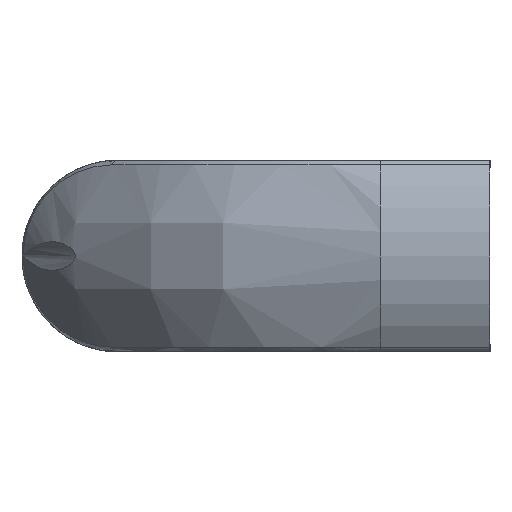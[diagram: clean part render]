
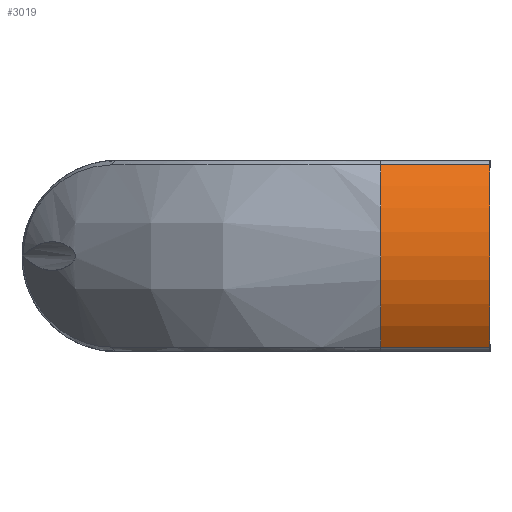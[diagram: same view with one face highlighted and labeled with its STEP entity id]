
A CAD part, left-side view. The second image highlights one B-rep face of the part: STEP entity #3019.
In plain terms, the highlighted cylindrical face has radius 28.521 mm (diameter 57.042 mm), a partial arc.
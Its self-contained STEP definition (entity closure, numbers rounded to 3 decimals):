
#42 = FACE_OUTER_BOUND ( 'NONE', #2627, .T. ) ;
#74 = CYLINDRICAL_SURFACE ( 'NONE', #1468, 28.521 ) ;
#594 = EDGE_CURVE ( 'NONE', #3085, #5094, #4191, .T. ) ;
#927 = ORIENTED_EDGE ( 'NONE', *, *, #1332, .T. ) ;
#1013 = DIRECTION ( 'NONE',  ( 0., 1., 0. ) ) ;
#1293 = DIRECTION ( 'NONE',  ( 0., 0., 1. ) ) ;
#1332 = EDGE_CURVE ( 'NONE', #3331, #1913, #2319, .T. ) ;
#1370 = CIRCLE ( 'NONE', #3042, 28.521 ) ;
#1468 = AXIS2_PLACEMENT_3D ( 'NONE', #3538, #3794, #3499 ) ;
#1913 = VERTEX_POINT ( 'NONE', #3684 ) ;
#2086 = CARTESIAN_POINT ( 'NONE',  ( -7.979, 20., 0. ) ) ;
#2138 = CARTESIAN_POINT ( 'NONE',  ( -31.122, 20., -16.669 ) ) ;
#2319 = LINE ( 'NONE', #4987, #2384 ) ;
#2384 = VECTOR ( 'NONE', #5026, 1000. ) ;
#2621 = CARTESIAN_POINT ( 'NONE',  ( -7.979, 0., 0. ) ) ;
#2627 = EDGE_LOOP ( 'NONE', ( #3443, #927, #3746, #3899 ) ) ;
#2650 = CARTESIAN_POINT ( 'NONE',  ( -31.122, 0., 16.669 ) ) ;
#2927 = AXIS2_PLACEMENT_3D ( 'NONE', #2086, #1013, #1293 ) ;
#3019 = ADVANCED_FACE ( 'NONE', ( #42 ), #74, .T. ) ;
#3042 = AXIS2_PLACEMENT_3D ( 'NONE', #2621, #5731, #3079 ) ;
#3079 = DIRECTION ( 'NONE',  ( 0., 0., 1. ) ) ;
#3085 = VERTEX_POINT ( 'NONE', #2650 ) ;
#3263 = CARTESIAN_POINT ( 'NONE',  ( -31.122, 20., 16.669 ) ) ;
#3331 = VERTEX_POINT ( 'NONE', #2138 ) ;
#3443 = ORIENTED_EDGE ( 'NONE', *, *, #5478, .F. ) ;
#3499 = DIRECTION ( 'NONE',  ( 0., 0., -1. ) ) ;
#3538 = CARTESIAN_POINT ( 'NONE',  ( -7.979, 20., 0. ) ) ;
#3684 = CARTESIAN_POINT ( 'NONE',  ( -31.122, 0., -16.669 ) ) ;
#3746 = ORIENTED_EDGE ( 'NONE', *, *, #4548, .T. ) ;
#3794 = DIRECTION ( 'NONE',  ( 0., -1., 0. ) ) ;
#3889 = CARTESIAN_POINT ( 'NONE',  ( -31.122, 20., 16.669 ) ) ;
#3899 = ORIENTED_EDGE ( 'NONE', *, *, #594, .T. ) ;
#4179 = VECTOR ( 'NONE', #4776, 1000. ) ;
#4191 = LINE ( 'NONE', #3263, #4179 ) ;
#4276 = CIRCLE ( 'NONE', #2927, 28.521 ) ;
#4548 = EDGE_CURVE ( 'NONE', #1913, #3085, #1370, .T. ) ;
#4776 = DIRECTION ( 'NONE',  ( 0., 1., 0. ) ) ;
#4987 = CARTESIAN_POINT ( 'NONE',  ( -31.122, 20., -16.669 ) ) ;
#5026 = DIRECTION ( 'NONE',  ( 0., -1., 0. ) ) ;
#5094 = VERTEX_POINT ( 'NONE', #3889 ) ;
#5478 = EDGE_CURVE ( 'NONE', #3331, #5094, #4276, .T. ) ;
#5731 = DIRECTION ( 'NONE',  ( 0., 1., 0. ) ) ;
